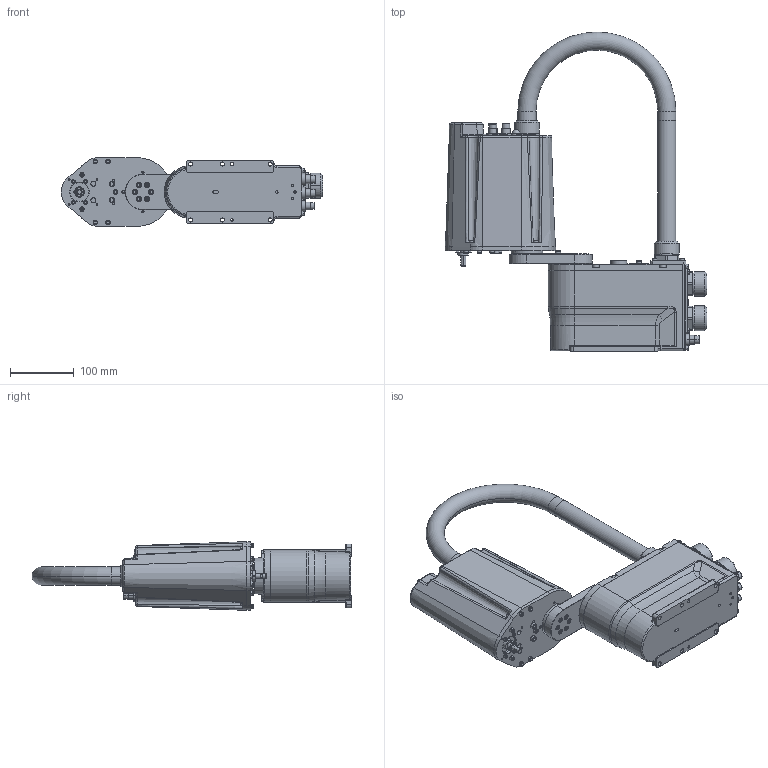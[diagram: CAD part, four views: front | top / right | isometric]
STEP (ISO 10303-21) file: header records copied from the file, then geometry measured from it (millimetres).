
FILE_DESCRIPTION((''),'2;1');
FILE_NAME('G1-171S_ASM','2009-08-18T',('0179539'),(''),'PRO/ENGINEER BY PARAMETRIC TECHNOLOGY CORPORATION, 2006510','PRO/ENGINEER BY PARAMETRIC TECHNOLOGY CORPORATION, 2006510','');
FILE_SCHEMA(('AUTOMOTIVE_DESIGN_CC2 { 1 2 10303 214 -1 1 5 2 }'));
Length unit declared in the file: millimetre
Products named in the file (6): BASE_S; J1_75; J2_75; SHAFT_75; CABLE_75; G1-171S_ASM
Assembly tree (5 placements, depth 2):
  G1-171S_ASM
    BASE_S
    J1_75
    J2_75
    SHAFT_75
    CABLE_75
Bounding box: 411.68 x 503.25 x 108 mm (x, y, z)
Volume: 1531509.1 mm3; surface area: 658397.1 mm2
Topology: 5 solids, 10 shells, 2957 faces, 6958 edges, 4375 vertices
Faces by surface type: plane 1176, cylinder 1112, cone 299, torus 216, bspline 138, sphere 16
Entity records: 123041 total; most frequent: CARTESIAN_POINT 32623, DIRECTION 15103, ORIENTED_EDGE 13848, EDGE_CURVE 6924, AXIS2_PLACEMENT_3D 5765, VERTEX_POINT 4375, VECTOR 3573, LINE 3573
